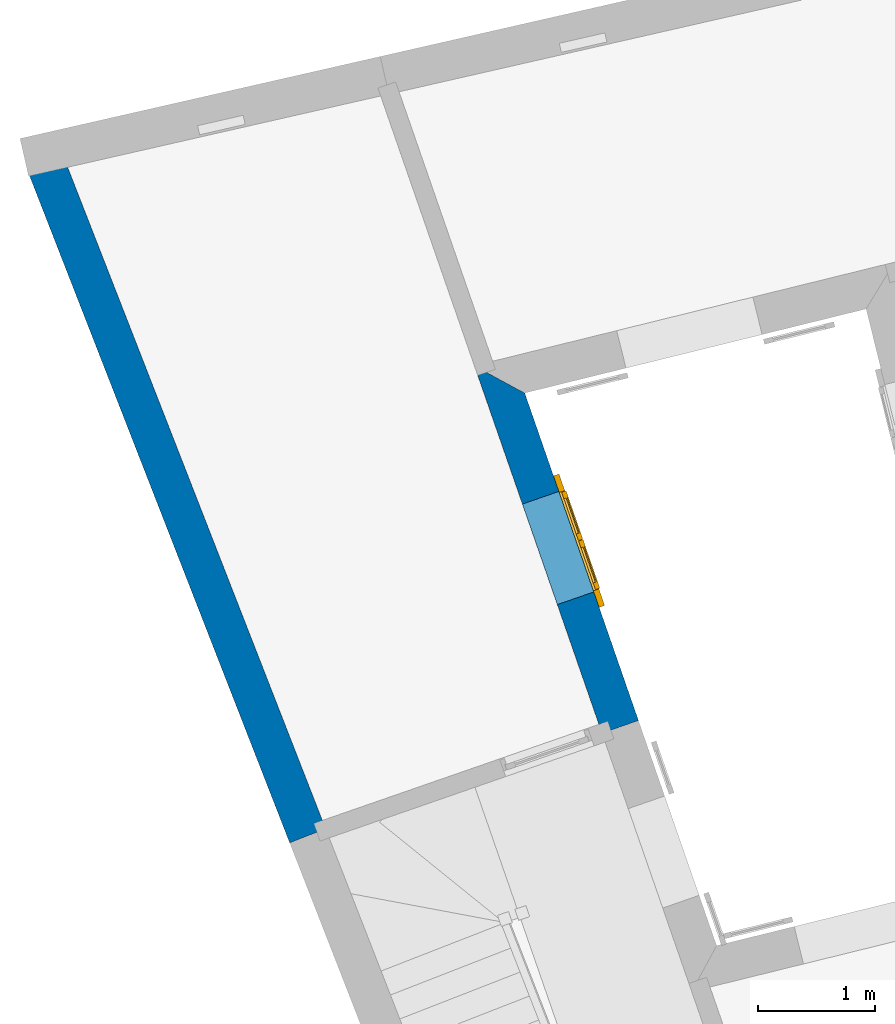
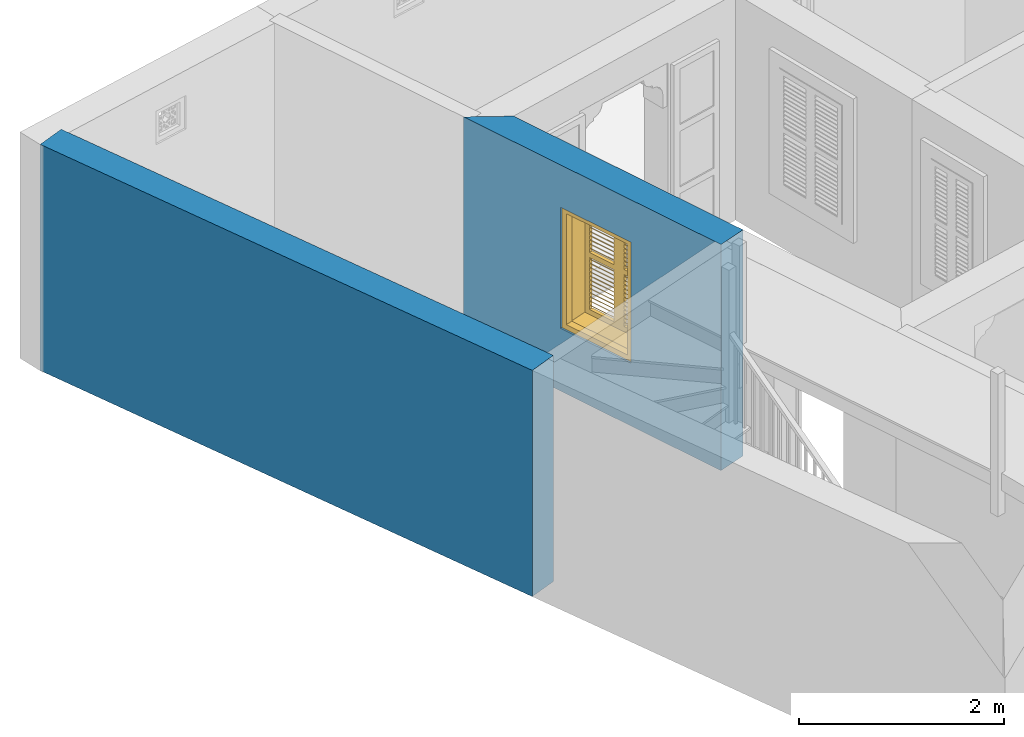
# One storey, part 3 of 12: 2 walls, 1 window, 1 opening.
"""IFC4 building model written with IfcOpenShell, lengths in metres."""

from ifc_helpers import new_model, si_unit, frame, origin, origin_with_axes, place, context, subcontext, project, spatial, polyline, outline, extrude, faceted_brep, source, transform, mapped, material, layer, layer_set, layer_usage, type_object, type_shapes, element, fill, save


model = new_model("IFC4")

# Units and contexts
model_context = context("Model", 3, world=origin_with_axes())
body_context = subcontext(model_context, "Body", "Model", "MODEL_VIEW")
ifc_project = project(units=[si_unit("PLANEANGLEUNIT", "RADIAN"), si_unit("MASSUNIT", "GRAM", prefix="KILO"), si_unit("FORCEUNIT", "NEWTON", prefix="KILO"), si_unit("LENGTHUNIT", "METRE"), si_unit("AREAUNIT", "SQUARE_METRE"), si_unit("VOLUMEUNIT", "CUBIC_METRE")], contexts=[model_context, model_context])

# Site, building, storey
site_placement = place(None, origin_with_axes())
site = spatial("IfcSite", under=ifc_project, at=site_placement, Name="Site plot-1", CompositionType="ELEMENT")
building_placement = place(None, origin_with_axes())
building = spatial("IfcBuilding", under=site, at=building_placement, Name="Building plot-1", CompositionType="ELEMENT")
storey_placement = place(None, origin_with_axes())
storey = spatial("IfcBuildingStorey", under=building, at=storey_placement, Name="plot-1 0", CompositionType="ELEMENT", Elevation=0.0)

# Wall, opening, window
ifc_material_1 = material(Name="Masonry")
ifc_layer_1 = layer(ifc_material_1, 0.33, ventilated=False)
ifc_layer_set_1 = layer_set([ifc_layer_1], Name="exterior_0.08_0.25")
ifc_layer_usage_1 = layer_usage(ifc_layer_set_1, "AXIS2", "POSITIVE", -0.25)
wall_type_1 = type_object("IfcWallType", Name="exterior_0.08_0.25", PredefinedType="SOLIDWALL", material=ifc_layer_set_1)
wall_1_placement = place(storey_placement, frame((-0.524368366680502, 19.9898284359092, 0.0), z_axis=(0.0, 0.0, 1.0), x_axis=(-0.328085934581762, 0.944647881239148, 0.0)))
wall_1 = element("IfcWall", 1, at=wall_1_placement, inside=storey, type_object=wall_type_1, material=ifc_layer_usage_1, Name="exterior", context=body_context, shape_type="SweptSolid", body=[
    extrude(outline(polyline([(2.17205393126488e-15, 0.0799999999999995), (-3.03780523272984e-15, -0.25), (2.96535054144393, -0.249999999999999), (3.32745221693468, 0.0800000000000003), (2.17205393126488e-15, 0.0799999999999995)])), origin_with_axes(), (0.0, 0.0, 1.0), 2.7),
])
opening_placement = place(wall_1_placement, frame((1.16483499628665, 0.0, 0.75)))
opening = element("IfcOpeningElement", 2, at=opening_placement, cuts=wall_1, Name="My Opening", ObjectType="Opening", context=body_context, shape_type="SweptSolid", body=[
    extrude(outline(polyline([(0.0, -0.270000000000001), (0.909999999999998, -0.27), (0.909999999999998, 1.1), (-1.33226762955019e-15, 1.1), (0.0, -0.270000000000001)])), origin_with_axes(), (0.0, 0.0, 1.0), 1.445),
])
window_type = type_object("IfcWindowType", Name="shuttered_shorter", PartitioningType="DOUBLE_PANEL_HORIZONTAL", PredefinedType="NOTDEFINED")
shared_shape = source(origin(), body_context, "Body", "Brep", [
    faceted_brep([(0.393, 0.0, 0.622), (0.074, 0.0, 0.622), (0.074, 0.0, 0.632), (0.393, 0.0, 0.632), (0.074, -0.04, 0.592), (0.393, -0.04, 0.592), (0.393, -0.04, 0.582), (0.074, -0.04, 0.582), (0.517, 0.0, 0.682), (0.836, 0.0, 0.682), (0.836, 0.0, 0.672), (0.517, 0.0, 0.672), (0.517, -0.04, 0.642), (0.836, -0.04, 0.642), (0.836, -0.04, 0.632), (0.517, -0.04, 0.632), (0.517, 0.0, 0.632), (0.836, 0.0, 0.632), (0.836, 0.0, 0.622), (0.517, 0.0, 0.622), (0.517, -0.04, 0.592), (0.836, -0.04, 0.592), (0.836, -0.04, 0.582), (0.517, -0.04, 0.582), (0.517, 0.0, 0.232), (0.836, 0.0, 0.232), (0.836, 0.0, 0.222), (0.517, 0.0, 0.222), (0.517, -0.04, 0.192), (0.836, -0.04, 0.192), (0.836, -0.04, 0.182), (0.517, -0.04, 0.182), (0.517, 0.0, 0.532), (0.836, 0.0, 0.532), (0.836, 0.0, 0.522), (0.517, 0.0, 0.522), (0.517, -0.04, 0.492), (0.836, -0.04, 0.492), (0.836, -0.04, 0.482), (0.517, -0.04, 0.482), (0.517, 0.0, 0.482), (0.836, 0.0, 0.482), (0.836, 0.0, 0.472), (0.517, 0.0, 0.472), (0.517, -0.04, 0.442), (0.836, -0.04, 0.442), (0.836, -0.04, 0.432), (0.517, -0.04, 0.432), (0.517, 0.0, 0.582), (0.836, 0.0, 0.582), (0.836, 0.0, 0.572), (0.517, 0.0, 0.572), (0.517, -0.04, 0.542), (0.836, -0.04, 0.542), (0.836, -0.04, 0.532), (0.517, -0.04, 0.532), (0.517, 0.0, 0.182), (0.836, 0.0, 0.182), (0.836, 0.0, 0.172), (0.517, 0.0, 0.172), (0.517, -0.04, 0.142), (0.836, -0.04, 0.142), (0.836, -0.04, 0.132), (0.517, -0.04, 0.132), (0.517, 0.0, 0.382), (0.836, 0.0, 0.382), (0.836, 0.0, 0.372), (0.517, 0.0, 0.372), (0.517, -0.04, 0.342), (0.836, -0.04, 0.342), (0.836, -0.04, 0.332), (0.517, -0.04, 0.332), (0.517, 0.0, 0.432), (0.836, 0.0, 0.432), (0.836, 0.0, 0.422), (0.517, 0.0, 0.422), (0.517, -0.04, 0.392), (0.836, -0.04, 0.392), (0.836, -0.04, 0.382), (0.517, -0.04, 0.382), (0.517, 0.0, 0.132), (0.836, 0.0, 0.132), (0.836, 0.0, 0.122), (0.517, 0.0, 0.122), (0.517, -0.04, 0.092), (0.836, -0.04, 0.092), (0.836, -0.04, 0.082), (0.517, -0.04, 0.082), (0.517, 0.0, 0.282), (0.836, 0.0, 0.282), (0.836, 0.0, 0.272), (0.517, 0.0, 0.272), (0.517, -0.04, 0.242), (0.836, -0.04, 0.242), (0.836, -0.04, 0.232), (0.517, -0.04, 0.232), (0.517, 0.0, 0.332), (0.836, 0.0, 0.332), (0.836, 0.0, 0.322), (0.517, 0.0, 0.322), (0.517, -0.04, 0.292), (0.836, -0.04, 0.292), (0.836, -0.04, 0.282), (0.517, -0.04, 0.282), (0.517, 0.0, 1.362667), (0.836, 0.0, 1.362667), (0.836, 0.0, 1.352667), (0.517, 0.0, 1.352667), (0.517, -0.04, 1.322667), (0.836, -0.04, 1.322667), (0.836, -0.04, 1.312667), (0.517, -0.04, 1.312667), (0.517, 0.0, 1.312667), (0.836, 0.0, 1.312667), (0.836, 0.0, 1.302667), (0.517, 0.0, 1.302667), (0.517, -0.04, 1.272667), (0.836, -0.04, 1.272667), (0.836, -0.04, 1.262667), (0.517, -0.04, 1.262667), (0.517, 0.0, 0.912667), (0.836, 0.0, 0.912667), (0.836, 0.0, 0.902667), (0.517, 0.0, 0.902667), (0.517, -0.04, 0.872667), (0.836, -0.04, 0.872667), (0.836, -0.04, 0.862667), (0.517, -0.04, 0.862667), (0.517, 0.0, 1.212667), (0.836, 0.0, 1.212667), (0.836, 0.0, 1.202667), (0.517, 0.0, 1.202667), (0.517, -0.04, 1.172667), (0.836, -0.04, 1.172667), (0.836, -0.04, 1.162667), (0.517, -0.04, 1.162667), (0.517, 0.0, 1.162667), (0.836, 0.0, 1.162667), (0.836, 0.0, 1.152667), (0.517, 0.0, 1.152667), (0.517, -0.04, 1.122667), (0.836, -0.04, 1.122667), (0.836, -0.04, 1.112667), (0.517, -0.04, 1.112667), (0.517, 0.0, 1.262667), (0.836, 0.0, 1.262667), (0.836, 0.0, 1.252667), (0.517, 0.0, 1.252667), (0.517, -0.04, 1.222667), (0.836, -0.04, 1.222667), (0.836, -0.04, 1.212667), (0.517, -0.04, 1.212667), (0.517, 0.0, 0.862667), (0.836, 0.0, 0.862667), (0.836, 0.0, 0.852667), (0.517, 0.0, 0.852667), (0.517, -0.04, 0.822667), (0.836, -0.04, 0.822667), (0.836, -0.04, 0.812667), (0.517, -0.04, 0.812667), (0.517, 0.0, 1.062667), (0.836, 0.0, 1.062667), (0.836, 0.0, 1.052667), (0.517, 0.0, 1.052667), (0.517, -0.04, 1.022667), (0.836, -0.04, 1.022667), (0.836, -0.04, 1.012667), (0.517, -0.04, 1.012667), (0.517, 0.0, 1.112667), (0.836, 0.0, 1.112667), (0.836, 0.0, 1.102667), (0.517, 0.0, 1.102667), (0.517, -0.04, 1.072667), (0.836, -0.04, 1.072667), (0.836, -0.04, 1.062667), (0.517, -0.04, 1.062667), (0.517, 0.0, 0.812667), (0.836, 0.0, 0.812667), (0.836, 0.0, 0.802667), (0.517, 0.0, 0.802667), (0.517, -0.04, 0.772667), (0.836, -0.04, 0.772667), (0.836, -0.04, 0.762667), (0.517, -0.04, 0.762667), (0.517, 0.0, 0.962667), (0.836, 0.0, 0.962667), (0.836, 0.0, 0.952667), (0.517, 0.0, 0.952667), (0.517, -0.04, 0.922667), (0.836, -0.04, 0.922667), (0.836, -0.04, 0.912667), (0.517, -0.04, 0.912667), (0.517, 0.0, 1.012667), (0.836, 0.0, 1.012667), (0.836, 0.0, 1.002667), (0.517, 0.0, 1.002667), (0.517, -0.04, 0.972667), (0.836, -0.04, 0.972667), (0.836, -0.04, 0.962667), (0.517, -0.04, 0.962667), (0.074, 0.0, 0.682), (0.393, 0.0, 0.682), (0.393, 0.0, 0.672), (0.074, 0.0, 0.672), (0.074, -0.04, 0.642), (0.393, -0.04, 0.642), (0.393, -0.04, 0.632), (0.074, -0.04, 0.632), (0.074, 0.0, 0.232), (0.393, 0.0, 0.232), (0.393, 0.0, 0.222), (0.074, 0.0, 0.222), (0.074, -0.04, 0.192), (0.393, -0.04, 0.192), (0.393, -0.04, 0.182), (0.074, -0.04, 0.182), (0.074, 0.0, 0.532), (0.393, 0.0, 0.532), (0.393, 0.0, 0.522), (0.074, 0.0, 0.522), (0.074, -0.04, 0.492), (0.393, -0.04, 0.492), (0.393, -0.04, 0.482), (0.074, -0.04, 0.482), (0.074, 0.0, 0.482), (0.393, 0.0, 0.482), (0.393, 0.0, 0.472), (0.074, 0.0, 0.472), (0.074, -0.04, 0.442), (0.393, -0.04, 0.442), (0.393, -0.04, 0.432), (0.074, -0.04, 0.432), (0.074, 0.0, 0.582), (0.393, 0.0, 0.582), (0.393, 0.0, 0.572), (0.074, 0.0, 0.572), (0.074, -0.04, 0.542), (0.393, -0.04, 0.542), (0.393, -0.04, 0.532), (0.074, -0.04, 0.532), (0.074, 0.0, 0.182), (0.393, 0.0, 0.182), (0.393, 0.0, 0.172), (0.074, 0.0, 0.172), (0.074, -0.04, 0.142), (0.393, -0.04, 0.142), (0.393, -0.04, 0.132), (0.074, -0.04, 0.132), (0.074, 0.0, 0.382), (0.393, 0.0, 0.382), (0.393, 0.0, 0.372), (0.074, 0.0, 0.372), (0.074, -0.04, 0.342), (0.393, -0.04, 0.342), (0.393, -0.04, 0.332), (0.074, -0.04, 0.332), (0.074, 0.0, 0.432), (0.393, 0.0, 0.432), (0.393, 0.0, 0.422), (0.074, 0.0, 0.422), (0.074, -0.04, 0.392), (0.393, -0.04, 0.392), (0.393, -0.04, 0.382), (0.074, -0.04, 0.382), (0.074, 0.0, 0.132), (0.393, 0.0, 0.132), (0.393, 0.0, 0.122), (0.074, 0.0, 0.122), (0.074, -0.04, 0.092), (0.393, -0.04, 0.092), (0.393, -0.04, 0.082), (0.074, -0.04, 0.082), (0.074, 0.0, 0.282), (0.393, 0.0, 0.282), (0.393, 0.0, 0.272), (0.074, 0.0, 0.272), (0.074, -0.04, 0.242), (0.393, -0.04, 0.242), (0.393, -0.04, 0.232), (0.074, -0.04, 0.232), (0.074, 0.0, 0.332), (0.393, 0.0, 0.332), (0.393, 0.0, 0.322), (0.074, 0.0, 0.322), (0.074, -0.04, 0.292), (0.393, -0.04, 0.292), (0.393, -0.04, 0.282), (0.074, -0.04, 0.282), (0.074, 0.0, 1.362667), (0.393, 0.0, 1.362667), (0.393, 0.0, 1.352667), (0.074, 0.0, 1.352667), (0.074, -0.04, 1.322667), (0.393, -0.04, 1.322667), (0.393, -0.04, 1.312667), (0.074, -0.04, 1.312667), (0.074, 0.0, 1.312667), (0.393, 0.0, 1.312667), (0.393, 0.0, 1.302667), (0.074, 0.0, 1.302667), (0.074, -0.04, 1.272667), (0.393, -0.04, 1.272667), (0.393, -0.04, 1.262667), (0.074, -0.04, 1.262667), (0.074, 0.0, 0.912667), (0.393, 0.0, 0.912667), (0.393, 0.0, 0.902667), (0.074, 0.0, 0.902667), (0.074, -0.04, 0.872667), (0.393, -0.04, 0.872667), (0.393, -0.04, 0.862667), (0.074, -0.04, 0.862667), (0.074, 0.0, 1.212667), (0.393, 0.0, 1.212667), (0.393, 0.0, 1.202667), (0.074, 0.0, 1.202667), (0.074, -0.04, 1.172667), (0.393, -0.04, 1.172667), (0.393, -0.04, 1.162667), (0.074, -0.04, 1.162667), (0.074, 0.0, 1.162667), (0.393, 0.0, 1.162667), (0.393, 0.0, 1.152667), (0.074, 0.0, 1.152667), (0.074, -0.04, 1.122667), (0.393, -0.04, 1.122667), (0.393, -0.04, 1.112667), (0.074, -0.04, 1.112667), (0.074, 0.0, 1.262667), (0.393, 0.0, 1.262667), (0.393, 0.0, 1.252667), (0.074, 0.0, 1.252667), (0.074, -0.04, 1.222667), (0.393, -0.04, 1.222667), (0.393, -0.04, 1.212667), (0.074, -0.04, 1.212667), (0.074, 0.0, 0.862667), (0.393, 0.0, 0.862667), (0.393, 0.0, 0.852667), (0.074, 0.0, 0.852667), (0.074, -0.04, 0.822667), (0.393, -0.04, 0.822667), (0.393, -0.04, 0.812667), (0.074, -0.04, 0.812667), (0.074, 0.0, 1.062667), (0.393, 0.0, 1.062667), (0.393, 0.0, 1.052667), (0.074, 0.0, 1.052667), (0.074, -0.04, 1.022667), (0.393, -0.04, 1.022667), (0.393, -0.04, 1.012667), (0.074, -0.04, 1.012667), (0.074, 0.0, 1.112667), (0.393, 0.0, 1.112667), (0.393, 0.0, 1.102667), (0.074, 0.0, 1.102667), (0.074, -0.04, 1.072667), (0.393, -0.04, 1.072667), (0.393, -0.04, 1.062667), (0.074, -0.04, 1.062667), (0.074, 0.0, 0.812667), (0.393, 0.0, 0.812667), (0.393, 0.0, 0.802667), (0.074, 0.0, 0.802667), (0.074, -0.04, 0.772667), (0.393, -0.04, 0.772667), (0.393, -0.04, 0.762667), (0.074, -0.04, 0.762667), (0.074, 0.0, 0.962667), (0.393, 0.0, 0.962667), (0.393, 0.0, 0.952667), (0.074, 0.0, 0.952667), (0.074, -0.04, 0.922667), (0.393, -0.04, 0.922667), (0.393, -0.04, 0.912667), (0.074, -0.04, 0.912667), (0.074, 0.0, 1.012667), (0.393, 0.0, 1.012667), (0.393, 0.0, 1.002667), (0.074, 0.0, 1.002667), (0.074, -0.04, 0.972667), (0.393, -0.04, 0.972667), (0.393, -0.04, 0.962667), (0.074, -0.04, 0.962667), (0.517, -0.04, 0.072), (0.457, -0.04, 0.012), (0.896, -0.04, 0.012), (0.836, -0.04, 0.072), (0.457, -0.04, 0.692667), (0.517, -0.04, 0.692667), (0.457, 0.0, 0.012), (0.896, 0.0, 0.012), (0.836, -0.04, 0.692667), (0.896, -0.04, 0.692667), (0.836, 0.0, 0.072), (0.517, 0.0, 0.072), (0.457, 0.0, 0.692667), (0.517, 0.0, 0.692667), (0.517, -0.04, 0.752666), (0.457, -0.04, 0.752666), (0.896, 0.0, 0.692667), (0.836, 0.0, 0.692667), (0.836, -0.04, 0.752666), (0.896, -0.04, 0.752666), (0.457, 0.0, 0.752666), (0.457, -0.04, 1.433333), (0.517, -0.04, 1.373333), (0.896, 0.0, 0.752666), (0.836, -0.04, 1.373333), (0.896, -0.04, 1.433333), (0.457, 0.0, 1.433333), (0.517, 0.0, 0.752666), (0.836, 0.0, 0.752666), (0.517, 0.0, 1.373333), (0.896, 0.0, 1.433333), (0.836, 0.0, 1.373333), (0.074, -0.04, 0.072), (0.014, -0.04, 0.012), (0.453, -0.04, 0.012), (0.393, -0.04, 0.072), (0.014, -0.04, 0.692667), (0.074, -0.04, 0.692667), (0.014, 0.0, 0.012), (0.453, 0.0, 0.012), (0.393, -0.04, 0.692667), (0.453, -0.04, 0.692667), (0.393, 0.0, 0.072), (0.074, 0.0, 0.072), (0.014, 0.0, 0.692667), (0.074, 0.0, 0.692667), (0.074, -0.04, 0.752666), (0.014, -0.04, 0.752666), (0.453, 0.0, 0.692667), (0.393, 0.0, 0.692667), (0.393, -0.04, 0.752666), (0.453, -0.04, 0.752666), (0.014, 0.0, 0.752666), (0.014, -0.04, 1.433333), (0.074, -0.04, 1.373333), (0.453, 0.0, 0.752666), (0.393, -0.04, 1.373333), (0.453, -0.04, 1.433333), (0.014, 0.0, 1.433333), (0.074, 0.0, 0.752666), (0.393, 0.0, 0.752666), (0.074, 0.0, 1.373333), (0.453, 0.0, 1.433333), (0.393, 0.0, 1.373333), (0.0, 0.33, 1.445), (0.91, 0.33, 1.445), (0.85, 0.33, 1.385), (0.06, 0.33, 1.385), (0.91, 0.25, 1.445), (0.0, 0.25, 1.445), (0.91, 0.25, 1.445), (0.85, 0.33, 0.06), (0.91, 0.33, 0.0), (0.85, 0.25, 1.385), (0.06, 0.25, 1.385), (0.0, 0.33, 0.0), (0.06, 0.33, 0.06), (0.0, 0.25, 0.0), (0.91, 0.25, 0.0), (0.85, 0.25, 0.06), (0.06, 0.25, 0.06), (1.05, 0.25, 1.585), (-0.14, 0.25, 1.585), (-0.14, -0.03, 1.585), (1.05, -0.03, 1.585), (0.9, -0.03, 1.435), (0.01, -0.03, 1.435), (0.01, 0.25, 1.435), (0.9, 0.25, 1.435), (0.9, 0.25, 0.01), (0.9, -0.03, 0.01), (1.05, -0.03, -0.14), (1.05, 0.25, -0.14), (0.01, -0.03, 0.01), (0.01, 0.25, 0.01), (-0.14, -0.03, -0.14), (-0.14, 0.25, -0.14)], [[[0, 1, 2, 3]], [[4, 5, 3, 2]], [[5, 6, 0, 3]], [[1, 0, 6, 7]], [[2, 1, 7, 4]], [[5, 4, 7, 6]], [[8, 9, 10, 11]], [[12, 13, 9, 8]], [[13, 14, 10, 9]], [[14, 15, 11, 10]], [[15, 12, 8, 11]], [[13, 12, 15, 14]], [[16, 17, 18, 19]], [[20, 21, 17, 16]], [[21, 22, 18, 17]], [[22, 23, 19, 18]], [[23, 20, 16, 19]], [[21, 20, 23, 22]], [[24, 25, 26, 27]], [[28, 29, 25, 24]], [[29, 30, 26, 25]], [[30, 31, 27, 26]], [[31, 28, 24, 27]], [[29, 28, 31, 30]], [[32, 33, 34, 35]], [[36, 37, 33, 32]], [[37, 38, 34, 33]], [[38, 39, 35, 34]], [[39, 36, 32, 35]], [[37, 36, 39, 38]], [[40, 41, 42, 43]], [[44, 45, 41, 40]], [[45, 46, 42, 41]], [[46, 47, 43, 42]], [[47, 44, 40, 43]], [[45, 44, 47, 46]], [[48, 49, 50, 51]], [[52, 53, 49, 48]], [[53, 54, 50, 49]], [[54, 55, 51, 50]], [[55, 52, 48, 51]], [[53, 52, 55, 54]], [[56, 57, 58, 59]], [[60, 61, 57, 56]], [[61, 62, 58, 57]], [[62, 63, 59, 58]], [[63, 60, 56, 59]], [[61, 60, 63, 62]], [[64, 65, 66, 67]], [[68, 69, 65, 64]], [[69, 70, 66, 65]], [[70, 71, 67, 66]], [[71, 68, 64, 67]], [[69, 68, 71, 70]], [[72, 73, 74, 75]], [[76, 77, 73, 72]], [[77, 78, 74, 73]], [[78, 79, 75, 74]], [[79, 76, 72, 75]], [[77, 76, 79, 78]], [[80, 81, 82, 83]], [[84, 85, 81, 80]], [[85, 86, 82, 81]], [[86, 87, 83, 82]], [[87, 84, 80, 83]], [[85, 84, 87, 86]], [[88, 89, 90, 91]], [[92, 93, 89, 88]], [[93, 94, 90, 89]], [[94, 95, 91, 90]], [[95, 92, 88, 91]], [[93, 92, 95, 94]], [[96, 97, 98, 99]], [[100, 101, 97, 96]], [[101, 102, 98, 97]], [[102, 103, 99, 98]], [[103, 100, 96, 99]], [[101, 100, 103, 102]], [[104, 105, 106, 107]], [[108, 109, 105, 104]], [[109, 110, 106, 105]], [[110, 111, 107, 106]], [[111, 108, 104, 107]], [[109, 108, 111, 110]], [[112, 113, 114, 115]], [[116, 117, 113, 112]], [[117, 118, 114, 113]], [[118, 119, 115, 114]], [[119, 116, 112, 115]], [[117, 116, 119, 118]], [[120, 121, 122, 123]], [[124, 125, 121, 120]], [[125, 126, 122, 121]], [[126, 127, 123, 122]], [[127, 124, 120, 123]], [[125, 124, 127, 126]], [[128, 129, 130, 131]], [[132, 133, 129, 128]], [[133, 134, 130, 129]], [[134, 135, 131, 130]], [[135, 132, 128, 131]], [[133, 132, 135, 134]], [[136, 137, 138, 139]], [[140, 141, 137, 136]], [[141, 142, 138, 137]], [[142, 143, 139, 138]], [[139, 143, 140, 136]], [[141, 140, 143, 142]], [[144, 145, 146, 147]], [[148, 149, 145, 144]], [[149, 150, 146, 145]], [[150, 151, 147, 146]], [[151, 148, 144, 147]], [[149, 148, 151, 150]], [[152, 153, 154, 155]], [[156, 157, 153, 152]], [[157, 158, 154, 153]], [[158, 159, 155, 154]], [[159, 156, 152, 155]], [[157, 156, 159, 158]], [[160, 161, 162, 163]], [[164, 165, 161, 160]], [[165, 166, 162, 161]], [[166, 167, 163, 162]], [[167, 164, 160, 163]], [[165, 164, 167, 166]], [[168, 169, 170, 171]], [[172, 173, 169, 168]], [[173, 174, 170, 169]], [[174, 175, 171, 170]], [[175, 172, 168, 171]], [[173, 172, 175, 174]], [[176, 177, 178, 179]], [[180, 181, 177, 176]], [[181, 182, 178, 177]], [[182, 183, 179, 178]], [[183, 180, 176, 179]], [[181, 180, 183, 182]], [[184, 185, 186, 187]], [[188, 189, 185, 184]], [[189, 190, 186, 185]], [[190, 191, 187, 186]], [[191, 188, 184, 187]], [[189, 188, 191, 190]], [[192, 193, 194, 195]], [[196, 197, 193, 192]], [[197, 198, 194, 193]], [[198, 199, 195, 194]], [[199, 196, 192, 195]], [[197, 196, 199, 198]], [[200, 201, 202, 203]], [[204, 205, 201, 200]], [[205, 206, 202, 201]], [[206, 207, 203, 202]], [[207, 204, 200, 203]], [[205, 204, 207, 206]], [[208, 209, 210, 211]], [[212, 213, 209, 208]], [[213, 214, 210, 209]], [[214, 215, 211, 210]], [[215, 212, 208, 211]], [[213, 212, 215, 214]], [[216, 217, 218, 219]], [[220, 221, 217, 216]], [[221, 222, 218, 217]], [[222, 223, 219, 218]], [[223, 220, 216, 219]], [[221, 220, 223, 222]], [[224, 225, 226, 227]], [[228, 229, 225, 224]], [[229, 230, 226, 225]], [[230, 231, 227, 226]], [[231, 228, 224, 227]], [[229, 228, 231, 230]], [[232, 233, 234, 235]], [[236, 237, 233, 232]], [[237, 238, 234, 233]], [[238, 239, 235, 234]], [[239, 236, 232, 235]], [[237, 236, 239, 238]], [[240, 241, 242, 243]], [[244, 245, 241, 240]], [[245, 246, 242, 241]], [[246, 247, 243, 242]], [[247, 244, 240, 243]], [[245, 244, 247, 246]], [[248, 249, 250, 251]], [[252, 253, 249, 248]], [[253, 254, 250, 249]], [[254, 255, 251, 250]], [[255, 252, 248, 251]], [[253, 252, 255, 254]], [[256, 257, 258, 259]], [[260, 261, 257, 256]], [[261, 262, 258, 257]], [[262, 263, 259, 258]], [[263, 260, 256, 259]], [[261, 260, 263, 262]], [[264, 265, 266, 267]], [[268, 269, 265, 264]], [[269, 270, 266, 265]], [[270, 271, 267, 266]], [[271, 268, 264, 267]], [[269, 268, 271, 270]], [[272, 273, 274, 275]], [[276, 277, 273, 272]], [[277, 278, 274, 273]], [[278, 279, 275, 274]], [[279, 276, 272, 275]], [[277, 276, 279, 278]], [[280, 281, 282, 283]], [[284, 285, 281, 280]], [[285, 286, 282, 281]], [[286, 287, 283, 282]], [[287, 284, 280, 283]], [[285, 284, 287, 286]], [[288, 289, 290, 291]], [[292, 293, 289, 288]], [[293, 294, 290, 289]], [[294, 295, 291, 290]], [[295, 292, 288, 291]], [[293, 292, 295, 294]], [[296, 297, 298, 299]], [[300, 301, 297, 296]], [[301, 302, 298, 297]], [[302, 303, 299, 298]], [[303, 300, 296, 299]], [[301, 300, 303, 302]], [[304, 305, 306, 307]], [[308, 309, 305, 304]], [[309, 310, 306, 305]], [[310, 311, 307, 306]], [[311, 308, 304, 307]], [[309, 308, 311, 310]], [[312, 313, 314, 315]], [[316, 317, 313, 312]], [[317, 318, 314, 313]], [[318, 319, 315, 314]], [[319, 316, 312, 315]], [[317, 316, 319, 318]], [[320, 321, 322, 323]], [[324, 325, 321, 320]], [[325, 326, 322, 321]], [[326, 327, 323, 322]], [[327, 324, 320, 323]], [[325, 324, 327, 326]], [[328, 329, 330, 331]], [[332, 333, 329, 328]], [[333, 334, 330, 329]], [[334, 335, 331, 330]], [[335, 332, 328, 331]], [[333, 332, 335, 334]], [[336, 337, 338, 339]], [[340, 341, 337, 336]], [[341, 342, 338, 337]], [[342, 343, 339, 338]], [[343, 340, 336, 339]], [[341, 340, 343, 342]], [[344, 345, 346, 347]], [[348, 349, 345, 344]], [[349, 350, 346, 345]], [[350, 351, 347, 346]], [[351, 348, 344, 347]], [[349, 348, 351, 350]], [[352, 353, 354, 355]], [[356, 357, 353, 352]], [[357, 358, 354, 353]], [[358, 359, 355, 354]], [[359, 356, 352, 355]], [[357, 356, 359, 358]], [[360, 361, 362, 363]], [[364, 365, 361, 360]], [[365, 366, 362, 361]], [[366, 367, 363, 362]], [[367, 364, 360, 363]], [[365, 364, 367, 366]], [[368, 369, 370, 371]], [[372, 373, 369, 368]], [[373, 374, 370, 369]], [[374, 375, 371, 370]], [[375, 372, 368, 371]], [[373, 372, 375, 374]], [[376, 377, 378, 379]], [[380, 381, 377, 376]], [[381, 382, 378, 377]], [[382, 383, 379, 378]], [[383, 380, 376, 379]], [[381, 380, 383, 382]], [[384, 385, 386, 387]], [[388, 385, 384, 389]], [[390, 391, 386, 385]], [[392, 387, 386, 393]], [[384, 387, 394, 395]], [[390, 385, 388, 396]], [[389, 384, 395, 397]], [[389, 398, 399, 388]], [[390, 395, 394, 391]], [[400, 393, 386, 391]], [[387, 392, 401, 394]], [[402, 392, 393, 403]], [[396, 388, 399, 404]], [[390, 396, 397, 395]], [[392, 389, 397, 401]], [[398, 389, 392, 402]], [[405, 399, 398, 406]], [[394, 401, 400, 391]], [[407, 403, 393, 400]], [[408, 402, 403, 409]], [[404, 399, 405, 410]], [[411, 397, 396, 404]], [[397, 411, 412, 401]], [[398, 402, 412, 411]], [[406, 398, 411, 413]], [[405, 406, 408, 409]], [[401, 412, 407, 400]], [[414, 409, 403, 407]], [[402, 408, 415, 412]], [[405, 409, 414, 410]], [[404, 410, 413, 411]], [[408, 406, 413, 415]], [[412, 415, 414, 407]], [[413, 410, 414, 415]], [[416, 417, 418, 419]], [[420, 417, 416, 421]], [[422, 423, 418, 417]], [[424, 419, 418, 425]], [[416, 419, 426, 427]], [[422, 417, 420, 428]], [[421, 416, 427, 429]], [[421, 430, 431, 420]], [[422, 427, 426, 423]], [[432, 425, 418, 423]], [[419, 424, 433, 426]], [[434, 424, 425, 435]], [[428, 420, 431, 436]], [[422, 428, 429, 427]], [[424, 421, 429, 433]], [[430, 421, 424, 434]], [[437, 431, 430, 438]], [[426, 433, 432, 423]], [[439, 435, 425, 432]], [[440, 434, 435, 441]], [[436, 431, 437, 442]], [[443, 429, 428, 436]], [[429, 443, 444, 433]], [[430, 434, 444, 443]], [[438, 430, 443, 445]], [[437, 438, 440, 441]], [[433, 444, 439, 432]], [[446, 441, 435, 439]], [[434, 440, 447, 444]], [[437, 441, 446, 442]], [[436, 442, 445, 443]], [[440, 438, 445, 447]], [[444, 447, 446, 439]], [[445, 442, 446, 447]], [[448, 449, 450, 451]], [[452, 449, 448]], [[448, 453, 454]], [[448, 454, 452]], [[455, 450, 449, 456]], [[451, 450, 457, 458]], [[459, 448, 451, 460]], [[448, 459, 461, 453]], [[454, 453, 458, 457]], [[462, 452, 454]], [[454, 457, 463]], [[454, 463, 462]], [[456, 449, 452, 462]], [[450, 455, 463, 457]], [[456, 459, 460, 455]], [[460, 451, 458, 464]], [[459, 456, 462, 461]], [[464, 458, 453, 461]], [[461, 462, 463, 464]], [[455, 460, 464, 463]], [[465, 466, 467, 468]], [[469, 470, 471, 472]], [[473, 474, 469, 472]], [[465, 468, 475, 476]], [[470, 477, 478, 471]], [[474, 473, 478, 477]], [[474, 477, 479, 475]], [[470, 467, 479, 477]], [[470, 469, 468, 467]], [[474, 475, 468, 469]], [[471, 478, 480, 466]], [[473, 472, 465, 476]], [[473, 476, 480, 478]], [[466, 465, 472, 471]], [[480, 476, 475, 479]], [[480, 479, 467, 466]]]),
])
type_shapes(window_type, [shared_shape])
window_placement = place(storey_placement, frame((-0.651479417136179, 21.1787705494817, 0.75), z_axis=(0.0, 0.0, 1.0), x_axis=(-0.298558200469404, 0.859629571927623, 0.0)))
window = element("IfcWindow", 3, at=window_placement, inside=storey, type_object=window_type, Name="bedroom sahn window", OverallHeight=1.445, OverallWidth=0.91, context=body_context, shape_type="MappedRepresentation", body=[
    mapped(shared_shape, transform((0.0, 0.0, 0.0), scale=1.0)),
])
fill(opening, window)

# Wall
ifc_material_2 = material(Name="Masonry")
ifc_layer_2 = layer(ifc_material_2, 0.33, ventilated=False)
ifc_layer_set_2 = layer_set([ifc_layer_2], Name="party_0.08_0.25")
ifc_layer_usage_2 = layer_usage(ifc_layer_set_2, "AXIS2", "POSITIVE", -0.25)
wall_type_2 = type_object("IfcWallType", Name="party_0.08_0.25", PredefinedType="SOLIDWALL", material=ifc_layer_set_2)
wall_2_placement = place(storey_placement, frame((-5.27889459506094, 24.8621064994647, 0.0), z_axis=(0.0, 0.0, 1.0), x_axis=(0.363339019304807, -0.931656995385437, 0.0)))
element("IfcWall", 4, at=wall_2_placement, inside=storey, type_object=wall_type_2, material=ifc_layer_usage_2, Name="party", context=body_context, shape_type="SweptSolid", body=[
    extrude(outline(polyline([(1.35492978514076e-15, 0.079999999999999), (-9.3410267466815e-16, -0.25), (6.16683270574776, -0.25), (6.16683270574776, 0.0800000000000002), (1.35492978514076e-15, 0.079999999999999)])), origin_with_axes(), (0.0, 0.0, 1.0), 2.7),
])

save(model, "model.ifc")
